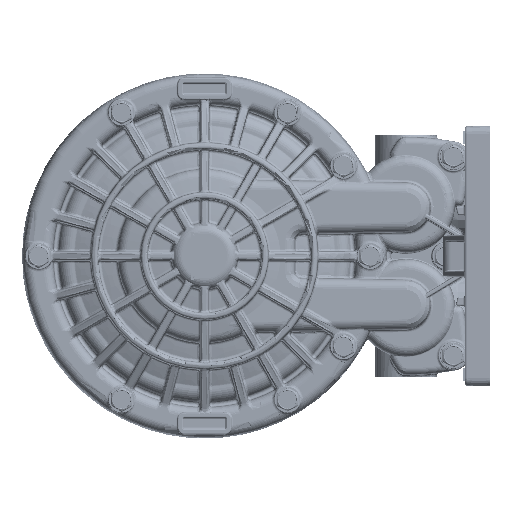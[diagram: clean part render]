
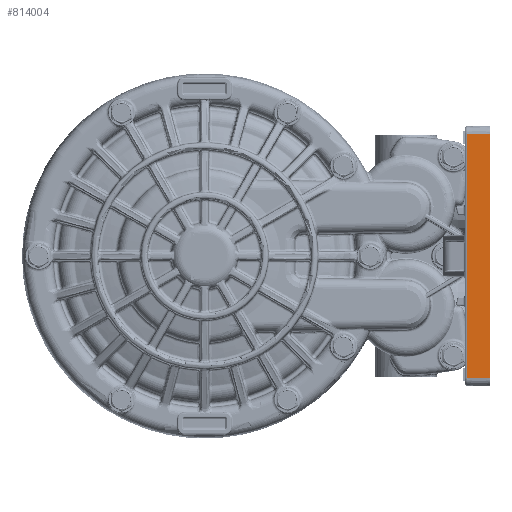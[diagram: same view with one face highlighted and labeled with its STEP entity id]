
A CAD part, left-side view. The second image highlights one B-rep face of the part: STEP entity #814004.
In plain terms, the highlighted planar face has unit normal (-1, 0.018, 0).
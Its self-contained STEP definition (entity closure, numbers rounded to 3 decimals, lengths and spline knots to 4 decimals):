
#118805=DIRECTION('',(0.,0.,-1.));
#118806=VECTOR('',#118805,3.64);
#118807=CARTESIAN_POINT('',(-2.6875,-4.253,1.82));
#118808=LINE('',#118807,#118806);
#200252=DIRECTION('',(0.,0.,1.));
#200253=VECTOR('',#200252,3.64);
#200254=CARTESIAN_POINT('',(-2.6816,-3.9123,-1.82));
#200255=LINE('',#200254,#200253);
#200256=DIRECTION('',(0.017,1.,0.));
#200257=VECTOR('',#200256,0.3407);
#200258=CARTESIAN_POINT('',(-2.6875,-4.253,1.82));
#200259=LINE('',#200258,#200257);
#200260=DIRECTION('',(0.017,1.,0.));
#200261=VECTOR('',#200260,0.3407);
#200262=CARTESIAN_POINT('',(-2.6875,-4.253,-1.82));
#200263=LINE('',#200262,#200261);
#635377=CARTESIAN_POINT('',(-2.6875,-4.253,-1.82));
#635379=VERTEX_POINT('',#635377);
#635382=CARTESIAN_POINT('',(-2.6875,-4.253,1.82));
#635384=VERTEX_POINT('',#635382);
#635499=CARTESIAN_POINT('',(-2.6816,-3.9123,-1.82));
#635500=VERTEX_POINT('',#635499);
#635503=CARTESIAN_POINT('',(-2.6816,-3.9123,1.82));
#635504=VERTEX_POINT('',#635503);
#813992=CARTESIAN_POINT('',(-2.6875,-4.253,2.9473));
#813993=DIRECTION('',(-1.,0.017,0.));
#813994=DIRECTION('',(0.,0.,-1.));
#813995=AXIS2_PLACEMENT_3D('',#813992,#813993,#813994);
#813996=PLANE('',#813995);
#813997=ORIENTED_EDGE('',*,*,#727186,.T.);
#813998=ORIENTED_EDGE('',*,*,#813987,.F.);
#813999=ORIENTED_EDGE('',*,*,#726839,.T.);
#814001=ORIENTED_EDGE('',*,*,#814000,.T.);
#814002=EDGE_LOOP('',(#813997,#813998,#813999,#814001));
#814003=FACE_OUTER_BOUND('',#814002,.F.);
#814004=ADVANCED_FACE('',(#814003),#813996,.T.);
#726839=EDGE_CURVE('',#635384,#635379,#118808,.T.);
#727186=EDGE_CURVE('',#635500,#635504,#200255,.T.);
#813987=EDGE_CURVE('',#635384,#635504,#200259,.T.);
#814000=EDGE_CURVE('',#635379,#635500,#200263,.T.);
